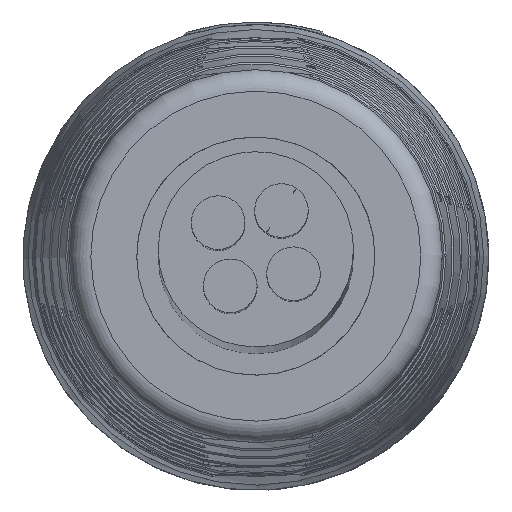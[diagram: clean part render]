
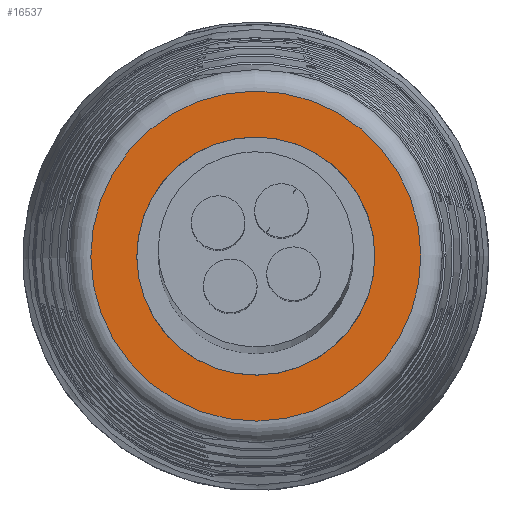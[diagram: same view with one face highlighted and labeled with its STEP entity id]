
A CAD part, top view. The second image highlights one B-rep face of the part: STEP entity #16537.
In plain terms, the highlighted planar face has unit normal (0, 0, 1).
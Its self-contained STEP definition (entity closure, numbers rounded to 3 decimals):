
#1706 = CARTESIAN_POINT ( 'NONE',  ( 2.379, -2.769, -176.855 ) ) ;
#3388 = DIRECTION ( 'NONE',  ( 0., 0., 1. ) ) ;
#3635 = CARTESIAN_POINT ( 'NONE',  ( 2.379, -2.769, -176.855 ) ) ;
#3980 = AXIS2_PLACEMENT_3D ( 'NONE', #4421, #23869, #14654 ) ;
#4421 = CARTESIAN_POINT ( 'NONE',  ( 2.379, -2.769, -176.855 ) ) ;
#4583 = ORIENTED_EDGE ( 'NONE', *, *, #19900, .T. ) ;
#4677 = CIRCLE ( 'NONE', #23039, 5.55 ) ;
#4821 = VERTEX_POINT ( 'NONE', #16481 ) ;
#6103 = CARTESIAN_POINT ( 'NONE',  ( 7.929, -2.732, -176.855 ) ) ;
#7508 = EDGE_CURVE ( 'NONE', #9943, #9943, #4677, .T. ) ;
#9273 = DIRECTION ( 'NONE',  ( 1., 0.007, 0. ) ) ;
#9943 = VERTEX_POINT ( 'NONE', #6103 ) ;
#11439 = FACE_BOUND ( 'NONE', #16931, .T. ) ;
#12631 = ORIENTED_EDGE ( 'NONE', *, *, #7508, .F. ) ;
#13225 = PLANE ( 'NONE',  #22525 ) ;
#13468 = DIRECTION ( 'NONE',  ( 0., 0., 1. ) ) ;
#14654 = DIRECTION ( 'NONE',  ( 1., 0.007, 0. ) ) ;
#16481 = CARTESIAN_POINT ( 'NONE',  ( 10.071, -2.718, -176.855 ) ) ;
#16537 = ADVANCED_FACE ( 'NONE', ( #24752, #11439 ), #13225, .T. ) ;
#16931 = EDGE_LOOP ( 'NONE', ( #12631 ) ) ;
#19900 = EDGE_CURVE ( 'NONE', #4821, #4821, #20735, .T. ) ;
#20735 = CIRCLE ( 'NONE', #3980, 7.692 ) ;
#21481 = EDGE_LOOP ( 'NONE', ( #4583 ) ) ;
#22346 = DIRECTION ( 'NONE',  ( 1., 0.007, 0. ) ) ;
#22525 = AXIS2_PLACEMENT_3D ( 'NONE', #3635, #3388, #9273 ) ;
#23039 = AXIS2_PLACEMENT_3D ( 'NONE', #1706, #13468, #22346 ) ;
#23869 = DIRECTION ( 'NONE',  ( 0., 0., 1. ) ) ;
#24752 = FACE_OUTER_BOUND ( 'NONE', #21481, .T. ) ;
